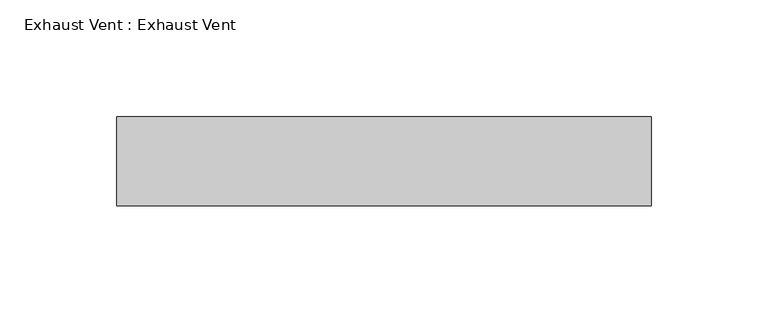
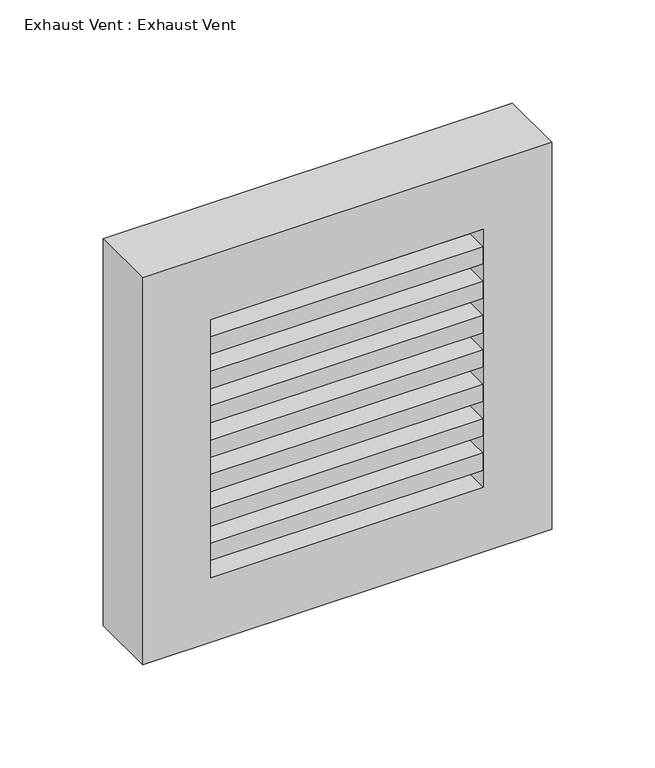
"""IFC4 building model written with IfcOpenShell, lengths in millimetres: proxy geometry, Exhaust Vent : Exhaust Vent."""

from ifc_helpers import new_model, si_unit, frame, origin, place, context, project, spatial, polyline, outline, extrude, source, transform, mapped, element, save


def exhaust_vent_exhaust_vent_25ff05df(model_context):
    return source(origin(), model_context, "Body", "SweptSolid", [
        extrude(outline(polyline([(2019.3, -122.4443955), (1790.7, -122.4443955), (1790.7, 106.1556045), (2019.3, 106.1556045), (2019.3, -122.4443955)]), holes=[polyline([(1981.2, 68.0556045), (1828.8, 68.0556045), (1828.8, -84.3443955), (1981.2, -84.3443955), (1981.2, 68.0556045)])]), frame((0.0, 215.9, 0.0), z_axis=(0.0, 1.0, 0.0), x_axis=(0.0, 0.0, 1.0)), (0.0, 0.0, 1.0), 38.1),
        extrude(outline(polyline([(68.0556045, 215.9), (-84.3443955, 215.9), (-84.3443955, 228.6), (68.0556045, 228.6), (68.0556045, 215.9)])), frame((0.0, 0.0, 1960.88), z_axis=(0.0, 0.0, 1.0), x_axis=(1.0, 0.0, 0.0)), (0.0, 0.0, 1.0), 10.16),
        extrude(outline(polyline([(68.0556045, 215.9), (-84.3443955, 215.9), (-84.3443955, 228.6), (68.0556045, 228.6), (68.0556045, 215.9)])), frame((0.0, 0.0, 1940.56), z_axis=(0.0, 0.0, 1.0), x_axis=(1.0, 0.0, 0.0)), (0.0, 0.0, 1.0), 10.16),
        extrude(outline(polyline([(68.0556045, 215.9), (-84.3443955, 215.9), (-84.3443955, 228.6), (68.0556045, 228.6), (68.0556045, 215.9)])), frame((0.0, 0.0, 1920.24), z_axis=(0.0, 0.0, 1.0), x_axis=(1.0, 0.0, 0.0)), (0.0, 0.0, 1.0), 10.16),
        extrude(outline(polyline([(68.0556045, 215.9), (-84.3443955, 215.9), (-84.3443955, 228.6), (68.0556045, 228.6), (68.0556045, 215.9)])), frame((0.0, 0.0, 1899.92), z_axis=(0.0, 0.0, 1.0), x_axis=(1.0, 0.0, 0.0)), (0.0, 0.0, 1.0), 10.16),
        extrude(outline(polyline([(68.0556045, 215.9), (-84.3443955, 215.9), (-84.3443955, 228.6), (68.0556045, 228.6), (68.0556045, 215.9)])), frame((0.0, 0.0, 1879.6), z_axis=(0.0, 0.0, 1.0), x_axis=(1.0, 0.0, 0.0)), (0.0, 0.0, 1.0), 10.16),
        extrude(outline(polyline([(68.0556045, 215.9), (-84.3443955, 215.9), (-84.3443955, 228.6), (68.0556045, 228.6), (68.0556045, 215.9)])), frame((0.0, 0.0, 1859.28), z_axis=(0.0, 0.0, 1.0), x_axis=(1.0, 0.0, 0.0)), (0.0, 0.0, 1.0), 10.16),
        extrude(outline(polyline([(68.0556045, 215.9), (-84.3443955, 215.9), (-84.3443955, 228.6), (68.0556045, 228.6), (68.0556045, 215.9)])), frame((0.0, 0.0, 1838.96), z_axis=(0.0, 0.0, 1.0), x_axis=(1.0, 0.0, 0.0)), (0.0, 0.0, 1.0), 10.16),
    ])


if __name__ == "__main__":
    model = new_model("IFC4")
    model_context = context("Model", 3, world=origin())
    ifc_project = project(units=[si_unit("LENGTHUNIT", "METRE", prefix="MILLI")], contexts=[model_context])
    site = spatial("IfcSite", under=ifc_project)
    building = spatial("IfcBuilding", under=site)
    placement = place(None, origin())
    exhaust_vent_exhaust_vent_shape = exhaust_vent_exhaust_vent_25ff05df(model_context)
    element("IfcBuildingElementProxy", 1, Name="Exhaust Vent : Exhaust Vent", ObjectType="Exhaust Vent : Exhaust Vent", at=placement, inside=building, context=model_context, shape_type="MappedRepresentation", body=[
        mapped(exhaust_vent_exhaust_vent_shape, transform((0.0, 0.0, 0.0), x_axis=(1.0, 0.0, 0.0), y_axis=(0.0, 1.0, 0.0), z_axis=(0.0, 0.0, 1.0))),
    ])
    save(model, "model.ifc")
